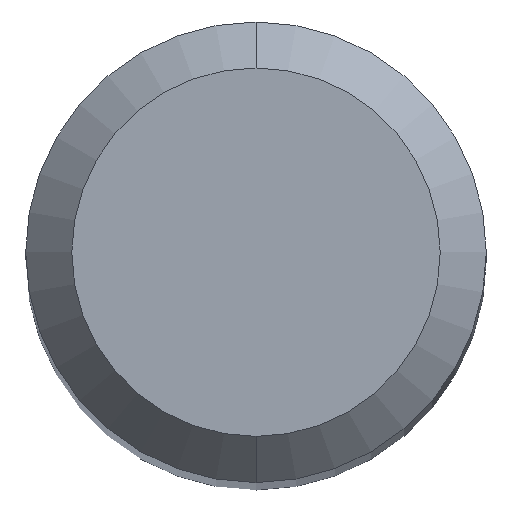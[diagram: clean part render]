
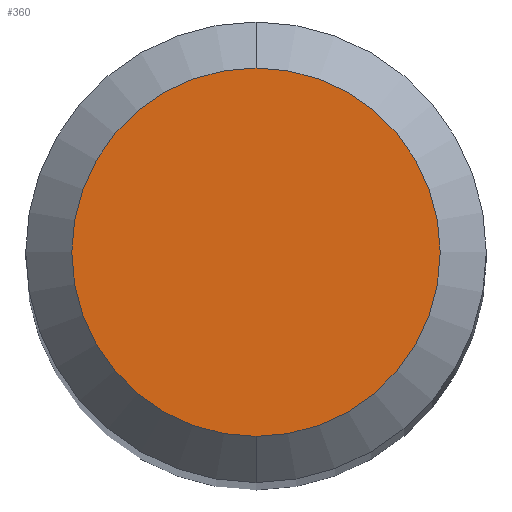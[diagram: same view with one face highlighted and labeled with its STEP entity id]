
A CAD part, top view. The second image highlights one B-rep face of the part: STEP entity #360.
In plain terms, the highlighted planar face has unit normal (0, 0, 1).
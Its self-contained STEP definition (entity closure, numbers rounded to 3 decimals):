
#280=VERTEX_POINT('',#632);
#352=EDGE_CURVE('',#280,#452,#713,.T.);
#360=ADVANCED_FACE('',(#721),#722,.T.);
#452=VERTEX_POINT('',#829);
#484=EDGE_CURVE('',#452,#280,#862,.T.);
#632=CARTESIAN_POINT('',(0.,-1.2,0.0));
#713=CIRCLE('',#1226,1.2);
#721=FACE_OUTER_BOUND('',#1236,.T.);
#722=PLANE('',#1237);
#829=CARTESIAN_POINT('',(0.0,1.2,0.0));
#862=CIRCLE('',#1537,1.2);
#1226=AXIS2_PLACEMENT_3D('',#1793,#1794,#1795);
#1236=EDGE_LOOP('',(#1798,#1799));
#1237=AXIS2_PLACEMENT_3D('',#1800,#1801,#1802);
#1537=AXIS2_PLACEMENT_3D('',#1958,#1959,#1960);
#1793=CARTESIAN_POINT('',(0.0,0.0,0.0));
#1794=DIRECTION('',(0.0,0.0,-1.0));
#1795=DIRECTION('',(0.0,1.0,0.0));
#1798=ORIENTED_EDGE('',*,*,#484,.F.);
#1799=ORIENTED_EDGE('',*,*,#352,.F.);
#1800=CARTESIAN_POINT('',(0.0,0.6,0.0));
#1801=DIRECTION('',(-0.0,0.0,1.0));
#1802=DIRECTION('',(0.0,-1.0,0.0));
#1958=CARTESIAN_POINT('',(0.0,0.0,0.0));
#1959=DIRECTION('',(0.0,0.0,-1.0));
#1960=DIRECTION('',(0.0,1.0,0.0));
